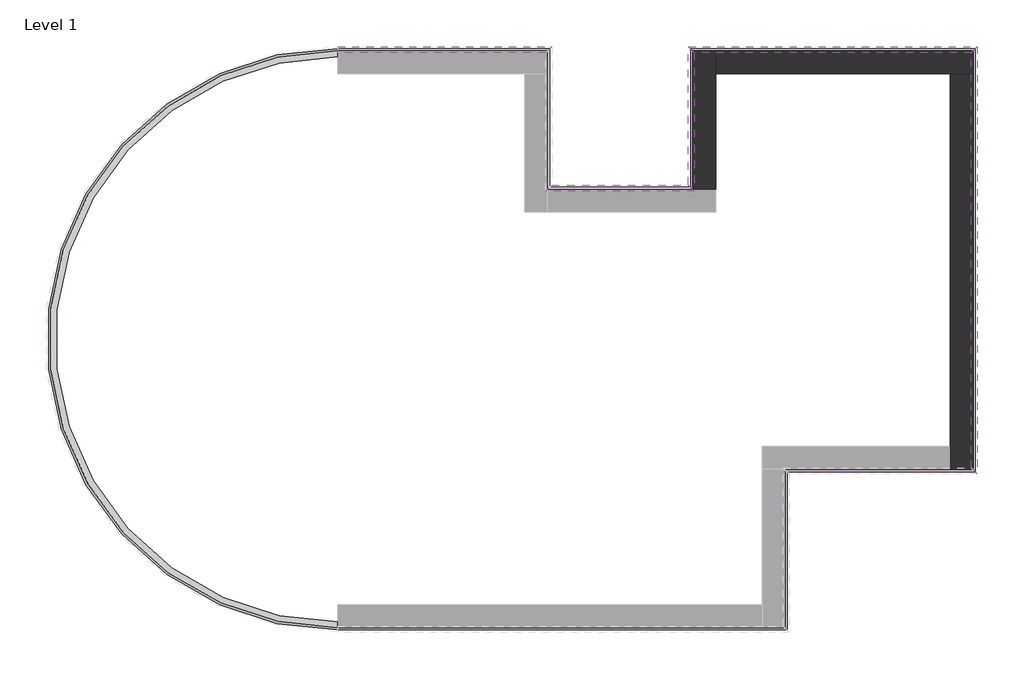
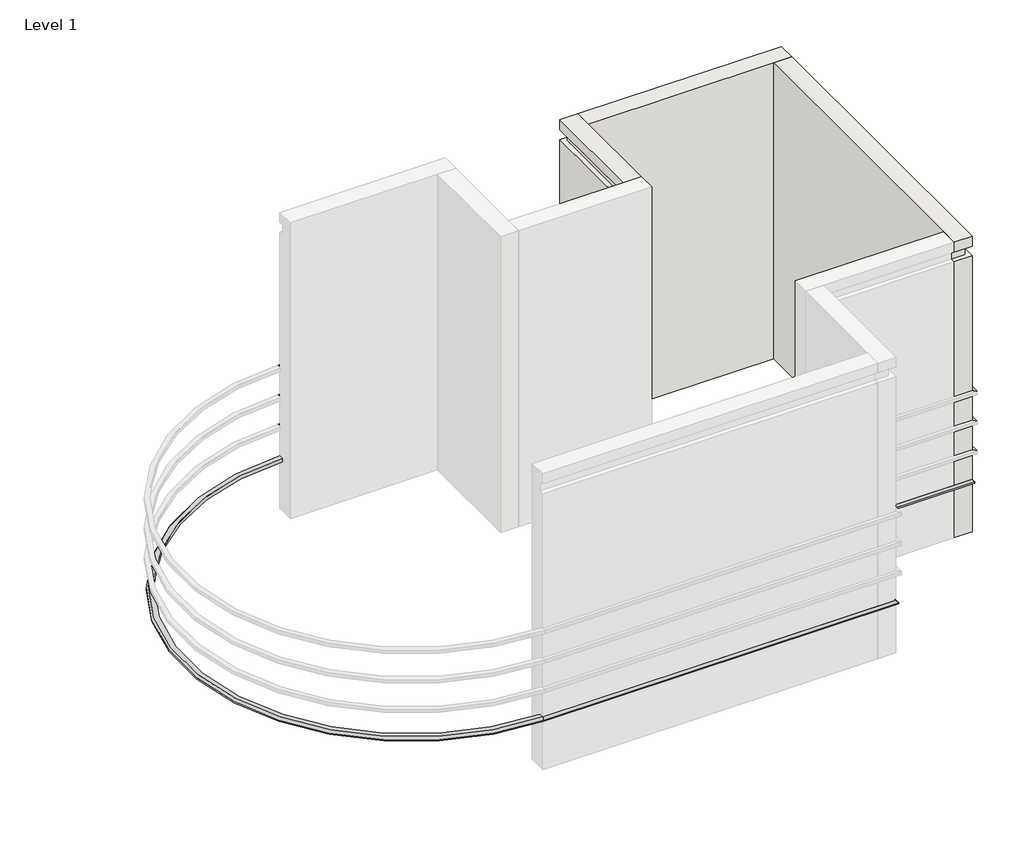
# One storey, part 2 of 2: 24 proxies, 3 walls.
"""IFC4 building model written with IfcOpenShell, lengths in millimetres."""

from ifc_helpers import new_model, si_unit, frame, origin, place, context, project, spatial, polyline, circle_curve, outline, extrude, faceted_brep, element, save
from ifc_brep_helpers import plane_surface, cylinder_surface, revolved_surface, advanced_brep

model = new_model("IFC4")

# Units and contexts
model_context = context("Model", 3, world=origin())
ifc_project = project(units=[si_unit("LENGTHUNIT", "METRE", prefix="MILLI")], contexts=[model_context])

# Site, building, storey
site = spatial("IfcSite", under=ifc_project)
building = spatial("IfcBuilding", under=site)
storey = spatial("IfcBuildingStorey", under=building, Name="Level 1", Elevation=0.0)

# Proxies
placement = place(None, origin())
element("IfcBuildingElementProxy", 1, Name="Reveals", at=placement, inside=storey, context=model_context, shape_type="SweptSolid", body=[
    extrude(outline(polyline([(-15653.4094576, 12119.8701144), (-15653.4094576, 12211.9451144), (-12362.5219576, 12211.9451144), (-12454.5969576, 12119.8701144), (-15653.4094576, 12119.8701144)])), frame((0.0, 0.0, 1625.6), z_axis=(0.0, 0.0, 1.0), x_axis=(1.0, 0.0, 0.0)), (0.0, 0.0, 1.0), 67.7333333),
])
element("IfcBuildingElementProxy", 2, Name="Reveals", at=placement, inside=storey, context=model_context, shape_type="SweptSolid", body=[
    extrude(outline(polyline([(-15653.4094576, 12119.8701144), (-15653.4094576, 12211.9451144), (-12362.5219576, 12211.9451144), (-12454.5969576, 12119.8701144), (-15653.4094576, 12119.8701144)])), frame((0.0, 0.0, 2235.2), z_axis=(0.0, 0.0, 1.0), x_axis=(1.0, 0.0, 0.0)), (0.0, 0.0, 1.0), 67.7333333),
])
element("IfcBuildingElementProxy", 3, Name="Reveals", at=placement, inside=storey, context=model_context, shape_type="SweptSolid", body=[
    extrude(outline(polyline([(-15653.4094576, 12119.8701144), (-15653.4094576, 12211.9451144), (-12362.5219576, 12211.9451144), (-12454.5969576, 12119.8701144), (-15653.4094576, 12119.8701144)])), frame((0.0, 0.0, 2844.8), z_axis=(0.0, 0.0, 1.0), x_axis=(1.0, 0.0, 0.0)), (0.0, 0.0, 1.0), 67.7333333),
])
element("IfcBuildingElementProxy", 4, Name="Wall Sweeps", at=placement, inside=storey, context=model_context, shape_type="Brep", body=[
    faceted_brep([(-15653.4094576, 12053.1951144, 1085.85), (-15653.4094576, 12145.2701144, 1085.85), (-15653.4094576, 12180.1951144, 1041.4), (-15653.4094576, 12180.1951144, 1016.0), (-15653.4094576, 12145.2701144, 1016.0), (-15653.4094576, 12053.1951144, 1016.0), (-12521.2719576, 12053.1951144, 1085.85), (-12521.2719576, 12053.1951144, 1016.0), (-12394.2719576, 12180.1951144, 1016.0), (-12394.2719576, 12180.1951144, 1041.4), (-12429.1969576, 12145.2701144, 1085.85)], [[[0, 1, 2, 3, 4, 5]], [[6, 7, 8, 9, 10]], [[1, 0, 6, 10]], [[2, 1, 10, 9]], [[3, 2, 9, 8]], [[5, 4, 3, 8, 7]], [[0, 5, 7, 6]]]),
])
element("IfcBuildingElementProxy", 5, Name="Wall Sweeps", at=placement, inside=storey, context=model_context, shape_type="Brep", body=[
    faceted_brep([(-12521.2719576, 12053.1951144, 1085.85), (-12429.1969576, 12145.2701144, 1085.85), (-12394.2719576, 12180.1951144, 1041.4), (-12394.2719576, 12180.1951144, 1016.0), (-12521.2719576, 12053.1951144, 1016.0), (-12521.2719576, 9919.5951144, 1085.85), (-12521.2719576, 9919.5951144, 1016.0), (-12394.2719576, 10046.5951144, 1016.0), (-12394.2719576, 10046.5951144, 1041.4), (-12429.1969576, 10011.6701144, 1085.85), (-12521.2719576, 11792.8451144, 1085.85), (-12521.2719576, 11792.8451144, 1016.0)], [[[0, 1, 2, 3, 4]], [[5, 6, 7, 8, 9]], [[1, 0, 10, 5, 9]], [[2, 1, 9, 8]], [[3, 2, 8, 7]], [[4, 3, 7, 6, 11]], [[0, 4, 11, 6, 5, 10]]]),
])
element("IfcBuildingElementProxy", 6, Name="Reveals", at=placement, inside=storey, context=model_context, shape_type="SweptSolid", body=[
    extrude(outline(polyline([(-12454.5969576, 9986.2701144), (-12362.5219576, 10078.3451144), (-10257.4969576, 10078.3451144), (-10165.4219576, 9986.2701144), (-12454.5969576, 9986.2701144)])), frame((0.0, 0.0, 2235.2), z_axis=(0.0, 0.0, 1.0), x_axis=(1.0, 0.0, 0.0)), (0.0, 0.0, 1.0), 67.7333333),
])
element("IfcBuildingElementProxy", 7, Name="Reveals", at=placement, inside=storey, context=model_context, shape_type="SweptSolid", body=[
    extrude(outline(polyline([(-12454.5969576, 9986.2701144), (-12362.5219576, 10078.3451144), (-10257.4969576, 10078.3451144), (-10165.4219576, 9986.2701144), (-12454.5969576, 9986.2701144)])), frame((0.0, 0.0, 2844.8), z_axis=(0.0, 0.0, 1.0), x_axis=(1.0, 0.0, 0.0)), (0.0, 0.0, 1.0), 67.7333333),
])
element("IfcBuildingElementProxy", 8, Name="Wall Sweeps", at=placement, inside=storey, context=model_context, shape_type="Brep", body=[
    faceted_brep([(-12521.2719576, 9919.5951144, 1085.85), (-12429.1969576, 10011.6701144, 1085.85), (-12394.2719576, 10046.5951144, 1041.4), (-12394.2719576, 10046.5951144, 1016.0), (-12521.2719576, 9919.5951144, 1016.0), (-10098.7469576, 9919.5951144, 1085.85), (-10098.7469576, 9919.5951144, 1016.0), (-10225.7469576, 10046.5951144, 1016.0), (-10225.7469576, 10046.5951144, 1041.4), (-10190.8219576, 10011.6701144, 1085.85), (-12429.1969576, 9919.5951144, 1085.85), (-12429.1969576, 9919.5951144, 1016.0)], [[[0, 1, 2, 3, 4]], [[5, 6, 7, 8, 9]], [[1, 0, 10, 5, 9]], [[2, 1, 9, 8]], [[3, 2, 8, 7]], [[4, 3, 7, 6, 11]], [[0, 4, 11, 6, 5, 10]]]),
])
element("IfcBuildingElementProxy", 9, Name="Reveals", at=placement, inside=storey, context=model_context, shape_type="SweptSolid", body=[
    extrude(outline(polyline([(-10165.4219576, 9986.2701144), (-10257.4969576, 10078.3451144), (-10257.4969576, 12211.9451144), (-10165.4219576, 12119.8701144), (-10165.4219576, 9986.2701144)])), frame((0.0, 0.0, 1625.6), z_axis=(0.0, 0.0, 1.0), x_axis=(1.0, 0.0, 0.0)), (0.0, 0.0, 1.0), 67.7333333),
])
element("IfcBuildingElementProxy", 10, Name="Reveals", at=placement, inside=storey, context=model_context, shape_type="SweptSolid", body=[
    extrude(outline(polyline([(-10165.4219576, 9986.2701144), (-10257.4969576, 10078.3451144), (-10257.4969576, 12211.9451144), (-10165.4219576, 12119.8701144), (-10165.4219576, 9986.2701144)])), frame((0.0, 0.0, 2235.2), z_axis=(0.0, 0.0, 1.0), x_axis=(1.0, 0.0, 0.0)), (0.0, 0.0, 1.0), 67.7333333),
])
element("IfcBuildingElementProxy", 11, Name="Reveals", at=placement, inside=storey, context=model_context, shape_type="SweptSolid", body=[
    extrude(outline(polyline([(-10165.4219576, 9986.2701144), (-10257.4969576, 10078.3451144), (-10257.4969576, 12211.9451144), (-10165.4219576, 12119.8701144), (-10165.4219576, 9986.2701144)])), frame((0.0, 0.0, 2844.8), z_axis=(0.0, 0.0, 1.0), x_axis=(1.0, 0.0, 0.0)), (0.0, 0.0, 1.0), 67.7333333),
])
element("IfcBuildingElementProxy", 12, Name="Wall Sweeps", at=placement, inside=storey, context=model_context, shape_type="Brep", body=[
    faceted_brep([(-10098.7469576, 9919.5951144, 1085.85), (-10190.8219576, 10011.6701144, 1085.85), (-10225.7469576, 10046.5951144, 1041.4), (-10225.7469576, 10046.5951144, 1016.0), (-10098.7469576, 9919.5951144, 1016.0), (-10098.7469576, 12053.1951144, 1085.85), (-10098.7469576, 12053.1951144, 1016.0), (-10225.7469576, 12180.1951144, 1016.0), (-10225.7469576, 12180.1951144, 1041.4), (-10190.8219576, 12145.2701144, 1085.85), (-10098.7469576, 10011.6701144, 1085.85), (-10098.7469576, 10011.6701144, 1016.0)], [[[0, 1, 2, 3, 4]], [[5, 6, 7, 8, 9]], [[1, 0, 10, 5, 9]], [[2, 1, 9, 8]], [[3, 2, 8, 7]], [[4, 3, 7, 6, 11]], [[0, 4, 11, 6, 5, 10]]]),
])
element("IfcBuildingElementProxy", 13, Name="Reveals", at=placement, inside=storey, context=model_context, shape_type="SweptSolid", body=[
    extrude(outline(polyline([(-10165.4219576, 12119.8701144), (-10257.4969576, 12211.9451144), (-5809.3219576, 12211.9451144), (-5901.3969576, 12119.8701144), (-10165.4219576, 12119.8701144)])), frame((0.0, 0.0, 1625.6), z_axis=(0.0, 0.0, 1.0), x_axis=(1.0, 0.0, 0.0)), (0.0, 0.0, 1.0), 67.7333333),
])
element("IfcBuildingElementProxy", 14, Name="Reveals", at=placement, inside=storey, context=model_context, shape_type="SweptSolid", body=[
    extrude(outline(polyline([(-10165.4219576, 12119.8701144), (-10257.4969576, 12211.9451144), (-5809.3219576, 12211.9451144), (-5901.3969576, 12119.8701144), (-10165.4219576, 12119.8701144)])), frame((0.0, 0.0, 2235.2), z_axis=(0.0, 0.0, 1.0), x_axis=(1.0, 0.0, 0.0)), (0.0, 0.0, 1.0), 67.7333333),
])
element("IfcBuildingElementProxy", 15, Name="Reveals", at=placement, inside=storey, context=model_context, shape_type="SweptSolid", body=[
    extrude(outline(polyline([(-10165.4219576, 12119.8701144), (-10257.4969576, 12211.9451144), (-5809.3219576, 12211.9451144), (-5901.3969576, 12119.8701144), (-10165.4219576, 12119.8701144)])), frame((0.0, 0.0, 2844.8), z_axis=(0.0, 0.0, 1.0), x_axis=(1.0, 0.0, 0.0)), (0.0, 0.0, 1.0), 67.7333333),
])
element("IfcBuildingElementProxy", 16, Name="Wall Sweeps", at=placement, inside=storey, context=model_context, shape_type="Brep", body=[
    faceted_brep([(-10098.7469576, 12053.1951144, 1085.85), (-10190.8219576, 12145.2701144, 1085.85), (-10225.7469576, 12180.1951144, 1041.4), (-10225.7469576, 12180.1951144, 1016.0), (-10098.7469576, 12053.1951144, 1016.0), (-5968.0719576, 12053.1951144, 1085.85), (-5968.0719576, 12053.1951144, 1016.0), (-5841.0719576, 12180.1951144, 1016.0), (-5841.0719576, 12180.1951144, 1041.4), (-5875.9969576, 12145.2701144, 1085.85), (-9838.3969576, 12053.1951144, 1085.85), (-9838.3969576, 12053.1951144, 1016.0)], [[[0, 1, 2, 3, 4]], [[5, 6, 7, 8, 9]], [[1, 0, 10, 5, 9]], [[2, 1, 9, 8]], [[3, 2, 8, 7]], [[4, 3, 7, 6, 11]], [[0, 4, 11, 6, 5, 10]]]),
])
element("IfcBuildingElementProxy", 17, Name="Reveals", at=placement, inside=storey, context=model_context, shape_type="SweptSolid", body=[
    extrude(outline(polyline([(-5901.3969576, 12119.8701144), (-5809.3219576, 12211.9451144), (-5809.3219576, 5630.1701144), (-5901.3969576, 5722.2451144), (-5901.3969576, 12119.8701144)])), frame((0.0, 0.0, 1625.6), z_axis=(0.0, 0.0, 1.0), x_axis=(1.0, 0.0, 0.0)), (0.0, 0.0, 1.0), 67.7333333),
])
element("IfcBuildingElementProxy", 18, Name="Reveals", at=placement, inside=storey, context=model_context, shape_type="SweptSolid", body=[
    extrude(outline(polyline([(-5901.3969576, 12119.8701144), (-5809.3219576, 12211.9451144), (-5809.3219576, 5630.1701144), (-5901.3969576, 5722.2451144), (-5901.3969576, 12119.8701144)])), frame((0.0, 0.0, 2235.2), z_axis=(0.0, 0.0, 1.0), x_axis=(1.0, 0.0, 0.0)), (0.0, 0.0, 1.0), 67.7333333),
])
element("IfcBuildingElementProxy", 19, Name="Reveals", at=placement, inside=storey, context=model_context, shape_type="SweptSolid", body=[
    extrude(outline(polyline([(-5901.3969576, 12119.8701144), (-5809.3219576, 12211.9451144), (-5809.3219576, 5630.1701144), (-5901.3969576, 5722.2451144), (-5901.3969576, 12119.8701144)])), frame((0.0, 0.0, 2844.8), z_axis=(0.0, 0.0, 1.0), x_axis=(1.0, 0.0, 0.0)), (0.0, 0.0, 1.0), 67.7333333),
])
element("IfcBuildingElementProxy", 20, Name="Wall Sweeps", at=placement, inside=storey, context=model_context, shape_type="Brep", body=[
    faceted_brep([(-5968.0719576, 12053.1951144, 1085.85), (-5875.9969576, 12145.2701144, 1085.85), (-5841.0719576, 12180.1951144, 1041.4), (-5841.0719576, 12180.1951144, 1016.0), (-5968.0719576, 12053.1951144, 1016.0), (-5968.0719576, 5788.9201144, 1085.85), (-5968.0719576, 5788.9201144, 1016.0), (-5841.0719576, 5661.9201144, 1016.0), (-5841.0719576, 5661.9201144, 1041.4), (-5875.9969576, 5696.8451144, 1085.85), (-5968.0719576, 11792.8451144, 1085.85), (-5968.0719576, 11792.8451144, 1016.0)], [[[0, 1, 2, 3, 4]], [[5, 6, 7, 8, 9]], [[1, 0, 10, 5, 9]], [[2, 1, 9, 8]], [[3, 2, 8, 7]], [[4, 3, 7, 6, 11]], [[0, 4, 11, 6, 5, 10]]]),
])
element("IfcBuildingElementProxy", 21, Name="Wall Sweeps", at=placement, inside=storey, context=model_context, shape_type="Brep", body=[
    faceted_brep([(-5968.0719576, 5788.9201144, 1085.85), (-5875.9969576, 5696.8451144, 1085.85), (-5841.0719576, 5661.9201144, 1041.4), (-5841.0719576, 5661.9201144, 1016.0), (-5968.0719576, 5788.9201144, 1016.0), (-8863.6719576, 5788.9201144, 1085.85), (-8863.6719576, 5788.9201144, 1016.0), (-8736.6719576, 5661.9201144, 1016.0), (-8736.6719576, 5661.9201144, 1041.4), (-8771.5969576, 5696.8451144, 1085.85), (-6228.4219576, 5788.9201144, 1085.85), (-6228.4219576, 5788.9201144, 1016.0)], [[[0, 1, 2, 3, 4]], [[5, 6, 7, 8, 9]], [[1, 0, 10, 5, 9]], [[2, 1, 9, 8]], [[3, 2, 8, 7]], [[4, 3, 7, 6, 11]], [[0, 4, 11, 6, 5, 10]]]),
])
element("IfcBuildingElementProxy", 22, Name="Wall Sweeps", at=placement, inside=storey, context=model_context, shape_type="Brep", body=[
    faceted_brep([(-8863.6719576, 5788.9201144, 1085.85), (-8771.5969576, 5696.8451144, 1085.85), (-8736.6719576, 5661.9201144, 1041.4), (-8736.6719576, 5661.9201144, 1016.0), (-8863.6719576, 5788.9201144, 1016.0), (-8863.6719576, 3350.5201144, 1085.85), (-8863.6719576, 3350.5201144, 1016.0), (-8736.6719576, 3223.5201144, 1016.0), (-8736.6719576, 3223.5201144, 1041.4), (-8771.5969576, 3258.4451144, 1085.85), (-8863.6719576, 5696.8451144, 1085.85), (-8863.6719576, 5696.8451144, 1016.0)], [[[0, 1, 2, 3, 4]], [[5, 6, 7, 8, 9]], [[1, 0, 10, 5, 9]], [[2, 1, 9, 8]], [[3, 2, 8, 7]], [[4, 3, 7, 6, 11]], [[0, 4, 11, 6, 5, 10]]]),
])
element("IfcBuildingElementProxy", 23, Name="Wall Sweeps", at=placement, inside=storey, context=model_context, shape_type="Brep", body=[
    faceted_brep([(-8863.6719576, 3350.5201144, 1085.85), (-8771.5969576, 3258.4451144, 1085.85), (-8736.6719576, 3223.5201144, 1041.4), (-8736.6719576, 3223.5201144, 1016.0), (-8863.6719576, 3350.5201144, 1016.0), (-15653.4094576, 3350.5201144, 1085.85), (-15653.4094576, 3350.5201144, 1016.0), (-15653.4094576, 3258.4451144, 1016.0), (-15653.4094576, 3223.5201144, 1016.0), (-15653.4094576, 3223.5201144, 1041.4), (-15653.4094576, 3258.4451144, 1085.85), (-9124.0219576, 3350.5201144, 1085.85), (-9124.0219576, 3350.5201144, 1016.0)], [[[0, 1, 2, 3, 4]], [[5, 6, 7, 8, 9, 10]], [[1, 0, 11, 5, 10]], [[2, 1, 10, 9]], [[3, 2, 9, 8]], [[4, 3, 8, 7, 6, 12]], [[0, 4, 12, 6, 5, 11]]]),
])
element("IfcBuildingElementProxy", 24, Name="Wall Sweeps", at=placement, inside=storey, context=model_context, shape_type="AdvancedBrep", body=[
    advanced_brep(
    [(-15653.4094576, 12145.2701144, 1085.85), (-15653.4094576, 3258.4451144, 1085.85), (-15653.4094576, 3350.5201144, 1085.85), (-15653.4094576, 12053.1951144, 1085.85), (-15653.4094576, 12180.1951144, 1041.4), (-15653.4094576, 3223.5201144, 1041.4), (-15653.4094576, 12180.1951144, 1016.0), (-15653.4094576, 3223.5201144, 1016.0), (-15653.4094576, 12053.1951144, 1016.0), (-15653.4094576, 3350.5201144, 1016.0), (-15653.4094576, 3258.4451144, 1016.0), (-15653.4094576, 12145.2701144, 1016.0)],
    [
        (0, 1, circle_curve(frame((-15653.4094576, 7701.8576144, 1085.85), z_axis=(0.0, 0.0, 1.0), x_axis=(0.0, -1.0, 0.0)), 4443.4125)),
        (1, 2),
        (2, 3, circle_curve(frame((-15653.4094576, 7701.8576144, 1085.85), z_axis=(0.0, 0.0, -1.0), x_axis=(0.0, -1.0, 0.0)), 4351.3375)),
        (3, 0),
        (4, 5, circle_curve(frame((-15653.4094576, 7701.8576144, 1041.4), z_axis=(0.0, 0.0, 1.0), x_axis=(0.0, -1.0, 0.0)), 4478.3375)),
        (5, 1),
        (0, 4),
        (6, 7, circle_curve(frame((-15653.4094576, 7701.8576144, 1016.0), z_axis=(0.0, 0.0, 1.0), x_axis=(0.0, -1.0, 0.0)), 4478.3375)),
        (7, 5),
        (4, 6),
        (8, 9, circle_curve(frame((-15653.4094576, 7701.8576144, 1016.0), z_axis=(0.0, 0.0, 1.0), x_axis=(0.0, -1.0, 0.0)), 4351.3375)),
        (9, 10),
        (10, 7),
        (6, 11),
        (11, 8),
        (2, 9),
        (8, 3),
    ],
    [
        plane_surface(frame((-15653.4094576, 7701.8576144, 1085.85), z_axis=(0.0, 0.0, 1.0), x_axis=(0.0, -1.0, 0.0))),
        revolved_surface(polyline([(-15653.4094576, 3258.4451144, 1085.85), (-15653.4094576, 3223.5201144, 1041.4)]), (-15653.4094576, 7701.8576144, 1016.0), (0.0, 0.0, -1.0)),
        cylinder_surface(frame((-15653.4094576, 7701.8576144, 1016.0), z_axis=(0.0, 0.0, -1.0), x_axis=(0.0, -1.0, 0.0)), 4478.3375),
        plane_surface(frame((-15653.4094576, 7701.8576144, 1016.0), z_axis=(0.0, 0.0, -1.0), x_axis=(0.0, -1.0, 0.0))),
        revolved_surface(polyline([(-15653.4094576, 3350.5201144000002, 1016.0), (-15653.4094576, 3350.5201144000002, 1085.85)]), (-15653.4094576, 7701.8576144, 1016.0), (0.0, 0.0, -1.0)),
        plane_surface(frame((-15653.4094576, 2953.6451144, 1016.0), z_axis=(1.0, 0.0, 0.0), x_axis=(0.0, 0.0, 1.0))),
        plane_surface(frame((-15653.4094576, 12450.0701144, 1016.0), z_axis=(1.0, 0.0, 0.0), x_axis=(0.0, 0.0, 1.0))),
    ],
    [
        (0, [[1, 2, 3, 4]]),
        (1, [[5, 6, -1, 7]]),
        (2, [[8, 9, -5, 10]]),
        (3, [[11, 12, 13, -8, 14, 15]]),
        (4, [[-3, 16, -11, 17]]),
        (5, [[-2, -6, -9, -13, -12, -16]]),
        (6, [[-17, -15, -14, -10, -7, -4]]),
    ],
),
])

# Walls
element("IfcWall", 25, ObjectType="Exterior - Brick and CMU on MTL. Stud", at=placement, inside=storey, context=model_context, shape_type="Brep", body=[
    faceted_brep([(-9838.3969576, 10011.6701144, 0.0), (-9838.3969576, 11792.8451144, 0.0), (-9838.3969576, 12145.2701144, 0.0), (-9838.3969576, 12145.2701144, 1016.0), (-9838.3969576, 12053.1951144, 1016.0), (-9838.3969576, 12053.1951144, 1085.85), (-9838.3969576, 12145.2701144, 1085.85), (-9838.3969576, 12145.2701144, 1625.6), (-9838.3969576, 12119.8701144, 1625.6), (-9838.3969576, 12119.8701144, 1693.3333333), (-9838.3969576, 12145.2701144, 1693.3333333), (-9838.3969576, 12145.2701144, 2235.2), (-9838.3969576, 12119.8701144, 2235.2), (-9838.3969576, 12119.8701144, 2302.9333333), (-9838.3969576, 12145.2701144, 2302.9333333), (-9838.3969576, 12145.2701144, 2844.8), (-9838.3969576, 12119.8701144, 2844.8), (-9838.3969576, 12119.8701144, 2912.5333333), (-9838.3969576, 12145.2701144, 2912.5333333), (-9838.3969576, 12145.2701144, 5689.6), (-9838.3969576, 12053.1951144, 5689.6), (-9838.3969576, 12053.1951144, 5892.8), (-9838.3969576, 12145.2701144, 5892.8), (-9838.3969576, 12145.2701144, 6096.0), (-9838.3969576, 11792.8451144, 6096.0), (-9838.3969576, 10011.6701144, 6096.0), (-10190.8219576, 10011.6701144, 6096.0), (-10190.8219576, 12145.2701144, 6096.0), (-10190.8219576, 12145.2701144, 5892.8), (-10190.8219576, 10011.6701144, 5892.8), (-10190.8219576, 12145.2701144, 0.0), (-10190.8219576, 10011.6701144, 0.0), (-10190.8219576, 10011.6701144, 1016.0), (-10190.8219576, 12145.2701144, 1016.0), (-10190.8219576, 12145.2701144, 1693.3333333), (-10190.8219576, 10011.6701144, 1693.3333333), (-10190.8219576, 10011.6701144, 2235.2), (-10190.8219576, 12145.2701144, 2235.2), (-10190.8219576, 10011.6701144, 1625.6), (-10190.8219576, 12145.2701144, 1625.6), (-10190.8219576, 12145.2701144, 1085.85), (-10190.8219576, 10011.6701144, 1085.85), (-10190.8219576, 12145.2701144, 2302.9333333), (-10190.8219576, 10011.6701144, 2302.9333333), (-10190.8219576, 10011.6701144, 2844.8), (-10190.8219576, 12145.2701144, 2844.8), (-10190.8219576, 12145.2701144, 2912.5333333), (-10190.8219576, 10011.6701144, 2912.5333333), (-10190.8219576, 10011.6701144, 5689.6), (-10190.8219576, 12145.2701144, 5689.6), (-10098.7469576, 10011.6701144, 0.0), (-10098.7469576, 12145.2701144, 0.0), (-10165.4219576, 12119.8701144, 1625.6), (-10165.4219576, 10011.6701144, 1625.6), (-10165.4219576, 10011.6701144, 1693.3333333), (-10165.4219576, 12119.8701144, 1693.3333333), (-10165.4219576, 12119.8701144, 2235.2), (-10165.4219576, 10011.6701144, 2235.2), (-10165.4219576, 10011.6701144, 2302.9333333), (-10165.4219576, 12119.8701144, 2302.9333333), (-10165.4219576, 12119.8701144, 2844.8), (-10165.4219576, 10011.6701144, 2844.8), (-10165.4219576, 10011.6701144, 2912.5333333), (-10165.4219576, 12119.8701144, 2912.5333333), (-10098.7469576, 12053.1951144, 1016.0), (-10098.7469576, 10011.6701144, 1016.0), (-10098.7469576, 10011.6701144, 1085.85), (-10098.7469576, 12053.1951144, 1085.85), (-10098.7469576, 12053.1951144, 5892.8), (-10098.7469576, 12053.1951144, 5689.6), (-10098.7469576, 10011.6701144, 5689.6), (-10098.7469576, 10011.6701144, 5892.8)], [[[0, 1, 2, 3, 4, 5, 6, 7, 8, 9, 10, 11, 12, 13, 14, 15, 16, 17, 18, 19, 20, 21, 22, 23, 24, 25]], [[26, 27, 28, 29]], [[30, 31, 32, 33]], [[34, 35, 36, 37]], [[38, 39, 40, 41]], [[42, 43, 44, 45]], [[46, 47, 48, 49]], [[25, 24, 23, 27, 26]], [[2, 1, 0, 50, 51]], [[52, 53, 54, 55]], [[56, 57, 58, 59]], [[60, 61, 62, 63]], [[64, 65, 66, 67]], [[68, 69, 70, 71]], [[0, 25, 26, 29, 71, 70, 48, 47, 62, 61, 44, 43, 58, 57, 36, 35, 54, 53, 38, 41, 66, 65, 32, 31, 50]], [[31, 30, 51, 50]], [[55, 54, 35, 34, 10, 9]], [[53, 52, 8, 7, 39, 38]], [[59, 58, 43, 42, 14, 13]], [[57, 56, 12, 11, 37, 36]], [[63, 62, 47, 46, 18, 17]], [[61, 60, 16, 15, 45, 44]], [[67, 66, 41, 40, 6, 5]], [[65, 64, 4, 3, 33, 32]], [[70, 69, 20, 19, 49, 48]], [[21, 68, 71, 29, 28, 22]], [[27, 23, 22, 28]], [[2, 51, 30, 33, 3]], [[10, 34, 37, 11]], [[39, 7, 6, 40]], [[14, 42, 45, 15]], [[18, 46, 49, 19]], [[52, 55, 9, 8]], [[56, 59, 13, 12]], [[60, 63, 17, 16]], [[64, 67, 5, 4]], [[69, 68, 21, 20]]]),
])
element("IfcWall", 26, ObjectType="Exterior - Brick and CMU on MTL. Stud", at=placement, inside=storey, context=model_context, shape_type="Brep", body=[
    faceted_brep([(-9838.3969576, 11792.8451144, 0.0), (-6228.4219576, 11792.8451144, 0.0), (-5875.9969576, 11792.8451144, 0.0), (-5875.9969576, 11792.8451144, 1016.0), (-5968.0719576, 11792.8451144, 1016.0), (-5968.0719576, 11792.8451144, 1085.85), (-5875.9969576, 11792.8451144, 1085.85), (-5875.9969576, 11792.8451144, 1625.6), (-5901.3969576, 11792.8451144, 1625.6), (-5901.3969576, 11792.8451144, 1693.3333333), (-5875.9969576, 11792.8451144, 1693.3333333), (-5875.9969576, 11792.8451144, 2235.2), (-5901.3969576, 11792.8451144, 2235.2), (-5901.3969576, 11792.8451144, 2302.9333333), (-5875.9969576, 11792.8451144, 2302.9333333), (-5875.9969576, 11792.8451144, 2844.8), (-5901.3969576, 11792.8451144, 2844.8), (-5901.3969576, 11792.8451144, 2912.5333333), (-5875.9969576, 11792.8451144, 2912.5333333), (-5875.9969576, 11792.8451144, 5689.6), (-5968.0719576, 11792.8451144, 5689.6), (-5968.0719576, 11792.8451144, 5892.8), (-5875.9969576, 11792.8451144, 5892.8), (-5875.9969576, 11792.8451144, 6096.0), (-6228.4219576, 11792.8451144, 6096.0), (-9838.3969576, 11792.8451144, 6096.0), (-9838.3969576, 12145.2701144, 6096.0), (-5875.9969576, 12145.2701144, 6096.0), (-5875.9969576, 12145.2701144, 5892.8), (-9838.3969576, 12145.2701144, 5892.8), (-5875.9969576, 12145.2701144, 0.0), (-9838.3969576, 12145.2701144, 0.0), (-9838.3969576, 12145.2701144, 1016.0), (-5875.9969576, 12145.2701144, 1016.0), (-5875.9969576, 12145.2701144, 1693.3333333), (-9838.3969576, 12145.2701144, 1693.3333333), (-9838.3969576, 12145.2701144, 2235.2), (-5875.9969576, 12145.2701144, 2235.2), (-9838.3969576, 12145.2701144, 1625.6), (-5875.9969576, 12145.2701144, 1625.6), (-5875.9969576, 12145.2701144, 1085.85), (-9838.3969576, 12145.2701144, 1085.85), (-5875.9969576, 12145.2701144, 2302.9333333), (-9838.3969576, 12145.2701144, 2302.9333333), (-9838.3969576, 12145.2701144, 2844.8), (-5875.9969576, 12145.2701144, 2844.8), (-5875.9969576, 12145.2701144, 2912.5333333), (-9838.3969576, 12145.2701144, 2912.5333333), (-9838.3969576, 12145.2701144, 5689.6), (-5875.9969576, 12145.2701144, 5689.6), (-9838.3969576, 12053.1951144, 0.0), (-5875.9969576, 12053.1951144, 0.0), (-5901.3969576, 12119.8701144, 1625.6), (-9838.3969576, 12119.8701144, 1625.6), (-9838.3969576, 12119.8701144, 1693.3333333), (-5901.3969576, 12119.8701144, 1693.3333333), (-5901.3969576, 12119.8701144, 2235.2), (-9838.3969576, 12119.8701144, 2235.2), (-9838.3969576, 12119.8701144, 2302.9333333), (-5901.3969576, 12119.8701144, 2302.9333333), (-5901.3969576, 12119.8701144, 2844.8), (-9838.3969576, 12119.8701144, 2844.8), (-9838.3969576, 12119.8701144, 2912.5333333), (-5901.3969576, 12119.8701144, 2912.5333333), (-5968.0719576, 12053.1951144, 1016.0), (-9838.3969576, 12053.1951144, 1016.0), (-9838.3969576, 12053.1951144, 1085.85), (-5968.0719576, 12053.1951144, 1085.85), (-5968.0719576, 12053.1951144, 5892.8), (-5968.0719576, 12053.1951144, 5689.6), (-9838.3969576, 12053.1951144, 5689.6), (-9838.3969576, 12053.1951144, 5892.8)], [[[0, 1, 2, 3, 4, 5, 6, 7, 8, 9, 10, 11, 12, 13, 14, 15, 16, 17, 18, 19, 20, 21, 22, 23, 24, 25]], [[26, 27, 28, 29]], [[30, 31, 32, 33]], [[34, 35, 36, 37]], [[38, 39, 40, 41]], [[42, 43, 44, 45]], [[46, 47, 48, 49]], [[25, 24, 23, 27, 26]], [[2, 1, 0, 50, 51]], [[52, 53, 54, 55]], [[56, 57, 58, 59]], [[60, 61, 62, 63]], [[64, 65, 66, 67]], [[68, 69, 70, 71]], [[0, 25, 26, 29, 71, 70, 48, 47, 62, 61, 44, 43, 58, 57, 36, 35, 54, 53, 38, 41, 66, 65, 32, 31, 50]], [[31, 30, 51, 50]], [[55, 54, 35, 34, 10, 9]], [[53, 52, 8, 7, 39, 38]], [[59, 58, 43, 42, 14, 13]], [[57, 56, 12, 11, 37, 36]], [[63, 62, 47, 46, 18, 17]], [[61, 60, 16, 15, 45, 44]], [[67, 66, 41, 40, 6, 5]], [[65, 64, 4, 3, 33, 32]], [[70, 69, 20, 19, 49, 48]], [[21, 68, 71, 29, 28, 22]], [[27, 23, 22, 28]], [[2, 51, 30, 33, 3]], [[10, 34, 37, 11]], [[39, 7, 6, 40]], [[14, 42, 45, 15]], [[18, 46, 49, 19]], [[52, 55, 9, 8]], [[56, 59, 13, 12]], [[60, 63, 17, 16]], [[64, 67, 5, 4]], [[69, 68, 21, 20]]]),
])
element("IfcWall", 27, ObjectType="Exterior - Brick and CMU on MTL. Stud", at=placement, inside=storey, context=model_context, shape_type="Brep", body=[
    faceted_brep([(-6228.4219576, 11792.8451144, 0.0), (-6228.4219576, 6049.2701144, 0.0), (-6228.4219576, 5696.8451144, 0.0), (-6228.4219576, 5696.8451144, 1016.0), (-6228.4219576, 5788.9201144, 1016.0), (-6228.4219576, 5788.9201144, 1085.85), (-6228.4219576, 5696.8451144, 1085.85), (-6228.4219576, 5696.8451144, 1625.6), (-6228.4219576, 5722.2451144, 1625.6), (-6228.4219576, 5722.2451144, 1693.3333333), (-6228.4219576, 5696.8451144, 1693.3333333), (-6228.4219576, 5696.8451144, 2235.2), (-6228.4219576, 5722.2451144, 2235.2), (-6228.4219576, 5722.2451144, 2302.9333333), (-6228.4219576, 5696.8451144, 2302.9333333), (-6228.4219576, 5696.8451144, 2844.8), (-6228.4219576, 5722.2451144, 2844.8), (-6228.4219576, 5722.2451144, 2912.5333333), (-6228.4219576, 5696.8451144, 2912.5333333), (-6228.4219576, 5696.8451144, 5689.6), (-6228.4219576, 5788.9201144, 5689.6), (-6228.4219576, 5788.9201144, 5892.8), (-6228.4219576, 5696.8451144, 5892.8), (-6228.4219576, 5696.8451144, 6096.0), (-6228.4219576, 6049.2701144, 6096.0), (-6228.4219576, 11792.8451144, 6096.0), (-5875.9969576, 11792.8451144, 6096.0), (-5875.9969576, 5696.8451144, 6096.0), (-5875.9969576, 5696.8451144, 5892.8), (-5875.9969576, 11792.8451144, 5892.8), (-5875.9969576, 5696.8451144, 0.0), (-5875.9969576, 11792.8451144, 0.0), (-5875.9969576, 11792.8451144, 1016.0), (-5875.9969576, 5696.8451144, 1016.0), (-5875.9969576, 5696.8451144, 1693.3333333), (-5875.9969576, 11792.8451144, 1693.3333333), (-5875.9969576, 11792.8451144, 2235.2), (-5875.9969576, 5696.8451144, 2235.2), (-5875.9969576, 11792.8451144, 1625.6), (-5875.9969576, 5696.8451144, 1625.6), (-5875.9969576, 5696.8451144, 1085.85), (-5875.9969576, 11792.8451144, 1085.85), (-5875.9969576, 5696.8451144, 2302.9333333), (-5875.9969576, 11792.8451144, 2302.9333333), (-5875.9969576, 11792.8451144, 2844.8), (-5875.9969576, 5696.8451144, 2844.8), (-5875.9969576, 5696.8451144, 2912.5333333), (-5875.9969576, 11792.8451144, 2912.5333333), (-5875.9969576, 11792.8451144, 5689.6), (-5875.9969576, 5696.8451144, 5689.6), (-5968.0719576, 11792.8451144, 0.0), (-5968.0719576, 5696.8451144, 0.0), (-5901.3969576, 5722.2451144, 1625.6), (-5901.3969576, 11792.8451144, 1625.6), (-5901.3969576, 11792.8451144, 1693.3333333), (-5901.3969576, 5722.2451144, 1693.3333333), (-5901.3969576, 5722.2451144, 2235.2), (-5901.3969576, 11792.8451144, 2235.2), (-5901.3969576, 11792.8451144, 2302.9333333), (-5901.3969576, 5722.2451144, 2302.9333333), (-5901.3969576, 5722.2451144, 2844.8), (-5901.3969576, 11792.8451144, 2844.8), (-5901.3969576, 11792.8451144, 2912.5333333), (-5901.3969576, 5722.2451144, 2912.5333333), (-5968.0719576, 5788.9201144, 1016.0), (-5968.0719576, 11792.8451144, 1016.0), (-5968.0719576, 11792.8451144, 1085.85), (-5968.0719576, 5788.9201144, 1085.85), (-5968.0719576, 5788.9201144, 5892.8), (-5968.0719576, 5788.9201144, 5689.6), (-5968.0719576, 11792.8451144, 5689.6), (-5968.0719576, 11792.8451144, 5892.8)], [[[0, 1, 2, 3, 4, 5, 6, 7, 8, 9, 10, 11, 12, 13, 14, 15, 16, 17, 18, 19, 20, 21, 22, 23, 24, 25]], [[26, 27, 28, 29]], [[30, 31, 32, 33]], [[34, 35, 36, 37]], [[38, 39, 40, 41]], [[42, 43, 44, 45]], [[46, 47, 48, 49]], [[25, 24, 23, 27, 26]], [[2, 1, 0, 50, 51]], [[52, 53, 54, 55]], [[56, 57, 58, 59]], [[60, 61, 62, 63]], [[64, 65, 66, 67]], [[68, 69, 70, 71]], [[0, 25, 26, 29, 71, 70, 48, 47, 62, 61, 44, 43, 58, 57, 36, 35, 54, 53, 38, 41, 66, 65, 32, 31, 50]], [[31, 30, 51, 50]], [[55, 54, 35, 34, 10, 9]], [[53, 52, 8, 7, 39, 38]], [[59, 58, 43, 42, 14, 13]], [[57, 56, 12, 11, 37, 36]], [[63, 62, 47, 46, 18, 17]], [[61, 60, 16, 15, 45, 44]], [[67, 66, 41, 40, 6, 5]], [[65, 64, 4, 3, 33, 32]], [[70, 69, 20, 19, 49, 48]], [[21, 68, 71, 29, 28, 22]], [[27, 23, 22, 28]], [[2, 51, 30, 33, 3]], [[10, 34, 37, 11]], [[39, 7, 6, 40]], [[14, 42, 45, 15]], [[18, 46, 49, 19]], [[52, 55, 9, 8]], [[56, 59, 13, 12]], [[60, 63, 17, 16]], [[64, 67, 5, 4]], [[69, 68, 21, 20]]]),
])

save(model, "model.ifc")
